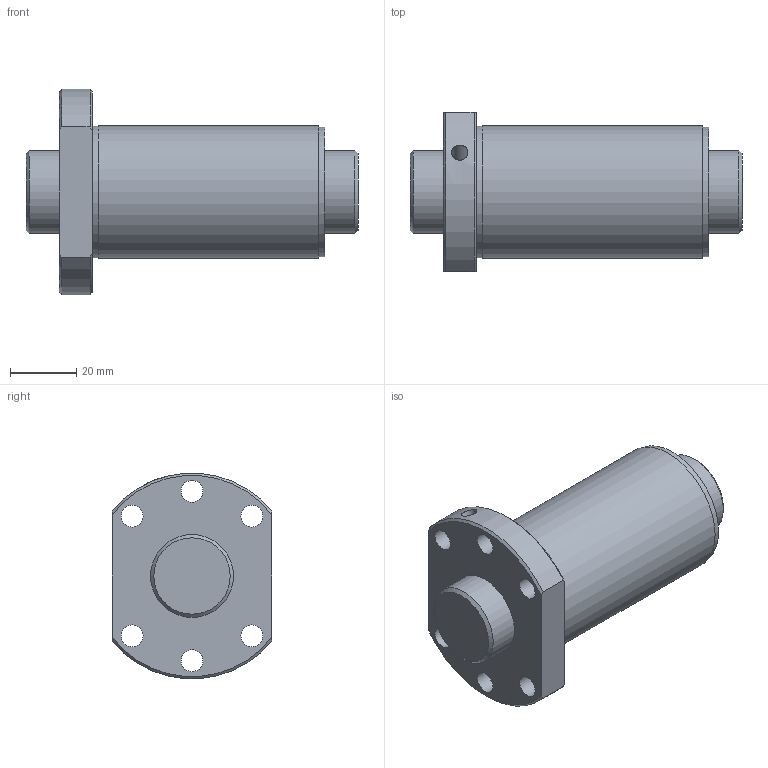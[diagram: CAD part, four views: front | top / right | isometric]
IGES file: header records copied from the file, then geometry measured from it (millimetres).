
Start section: Data from Parasolid IGES Translator 26.0.171, Copyright(c) 2006 Siemens PLM Software. All Rights Reserved.
Global section: file name: SDA2525V-3G0+100LC0(0G000).igs; native system: By Siemens PLM Incorporated; preprocessor: XPlus GENERIC/IGES 26.0.171; author: Noname; organization: Noname; date: 20240528.113048; units: millimetre
Bounding box: 100 x 48 x 61.8 mm (x, y, z)
Surface area: 31031.7 mm2 (no closed solid volume)
Topology: 0 solids, 0 shells, 31 faces, 156 edges, 139 vertices
Faces by surface type: revolution 22, extrusion 9
